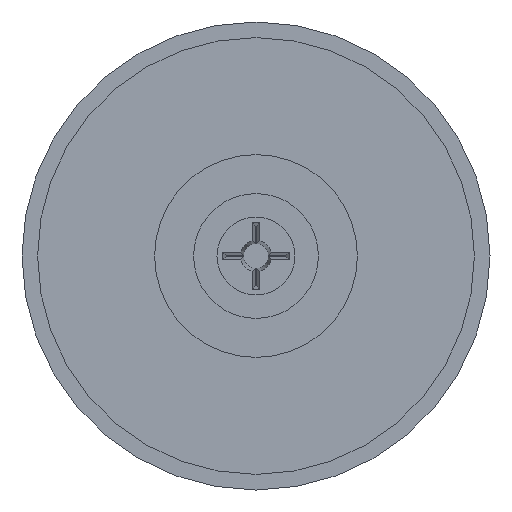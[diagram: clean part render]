
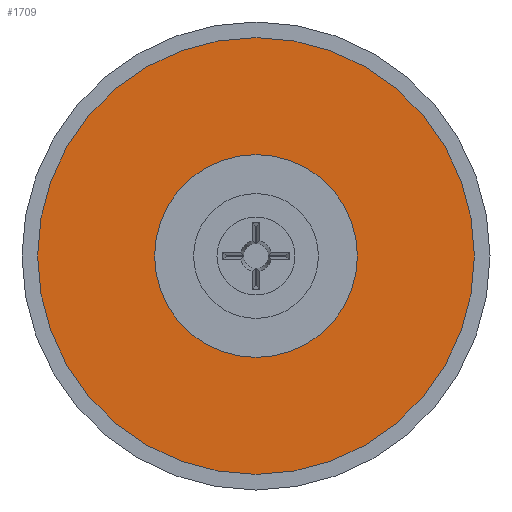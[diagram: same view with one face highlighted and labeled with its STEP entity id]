
A CAD part, front view. The second image highlights one B-rep face of the part: STEP entity #1709.
In plain terms, the highlighted planar face has unit normal (0, -1, 0).
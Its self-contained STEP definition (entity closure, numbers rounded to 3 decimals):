
#179 = FACE_OUTER_BOUND ( 'NONE', #1667, .T. ) ;
#186 = FACE_BOUND ( 'NONE', #1682, .T. ) ;
#294 = CIRCLE ( 'NONE', #2148, 13. ) ;
#295 = CIRCLE ( 'NONE', #2145, 28. ) ;
#378 = CIRCLE ( 'NONE', #2185, 13. ) ;
#624 = VERTEX_POINT ( 'NONE', #1504 ) ;
#626 = VERTEX_POINT ( 'NONE', #1512 ) ;
#629 = VERTEX_POINT ( 'NONE', #1523 ) ;
#631 = VERTEX_POINT ( 'NONE', #1513 ) ;
#853 = AXIS2_PLACEMENT_3D ( 'NONE', #1565, #1563, #1561 ) ;
#882 = CIRCLE ( 'NONE', #2187, 28. ) ;
#1264 = CARTESIAN_POINT ( 'NONE',  ( 0., 0., 0. ) ) ;
#1265 = DIRECTION ( 'NONE',  ( 0., 1., 0. ) ) ;
#1266 = DIRECTION ( 'NONE',  ( -1., 0., 0. ) ) ;
#1270 = CARTESIAN_POINT ( 'NONE',  ( 0., 0., 0. ) ) ;
#1271 = DIRECTION ( 'NONE',  ( 0., 1., 0. ) ) ;
#1272 = DIRECTION ( 'NONE',  ( -1., 0., 0. ) ) ;
#1430 = CARTESIAN_POINT ( 'NONE',  ( 0., 0., 0. ) ) ;
#1431 = DIRECTION ( 'NONE',  ( 0., 1., 0. ) ) ;
#1432 = DIRECTION ( 'NONE',  ( -1., 0., 0. ) ) ;
#1441 = CARTESIAN_POINT ( 'NONE',  ( 0., 0., 0. ) ) ;
#1442 = DIRECTION ( 'NONE',  ( 0., 1., 0. ) ) ;
#1443 = DIRECTION ( 'NONE',  ( -1., 0., 0. ) ) ;
#1504 = CARTESIAN_POINT ( 'NONE',  ( 28., 0., 0. ) ) ;
#1512 = CARTESIAN_POINT ( 'NONE',  ( -28., 0., 0. ) ) ;
#1513 = CARTESIAN_POINT ( 'NONE',  ( 13., 0., 0. ) ) ;
#1523 = CARTESIAN_POINT ( 'NONE',  ( -13., 0., 0. ) ) ;
#1561 = DIRECTION ( 'NONE',  ( 1., 0., 0. ) ) ;
#1563 = DIRECTION ( 'NONE',  ( 0., -1., 0. ) ) ;
#1565 = CARTESIAN_POINT ( 'NONE',  ( -13., 0., 0. ) ) ;
#1568 = PLANE ( 'NONE',  #853 ) ;
#1632 = ORIENTED_EDGE ( 'NONE', *, *, #2053, .F. ) ;
#1667 = EDGE_LOOP ( 'NONE', ( #1632, #1820 ) ) ;
#1681 = ORIENTED_EDGE ( 'NONE', *, *, #2049, .T. ) ;
#1682 = EDGE_LOOP ( 'NONE', ( #1821, #1681 ) ) ;
#1709 = ADVANCED_FACE ( 'NONE', ( #186, #179 ), #1568, .T. ) ;
#1820 = ORIENTED_EDGE ( 'NONE', *, *, #1986, .F. ) ;
#1821 = ORIENTED_EDGE ( 'NONE', *, *, #1988, .T. ) ;
#1986 = EDGE_CURVE ( 'NONE', #624, #626, #295, .T. ) ;
#1988 = EDGE_CURVE ( 'NONE', #629, #631, #294, .T. ) ;
#2049 = EDGE_CURVE ( 'NONE', #631, #629, #378, .T. ) ;
#2053 = EDGE_CURVE ( 'NONE', #626, #624, #882, .T. ) ;
#2145 = AXIS2_PLACEMENT_3D ( 'NONE', #1264, #1265, #1266 ) ;
#2148 = AXIS2_PLACEMENT_3D ( 'NONE', #1270, #1271, #1272 ) ;
#2185 = AXIS2_PLACEMENT_3D ( 'NONE', #1430, #1431, #1432 ) ;
#2187 = AXIS2_PLACEMENT_3D ( 'NONE', #1441, #1442, #1443 ) ;
